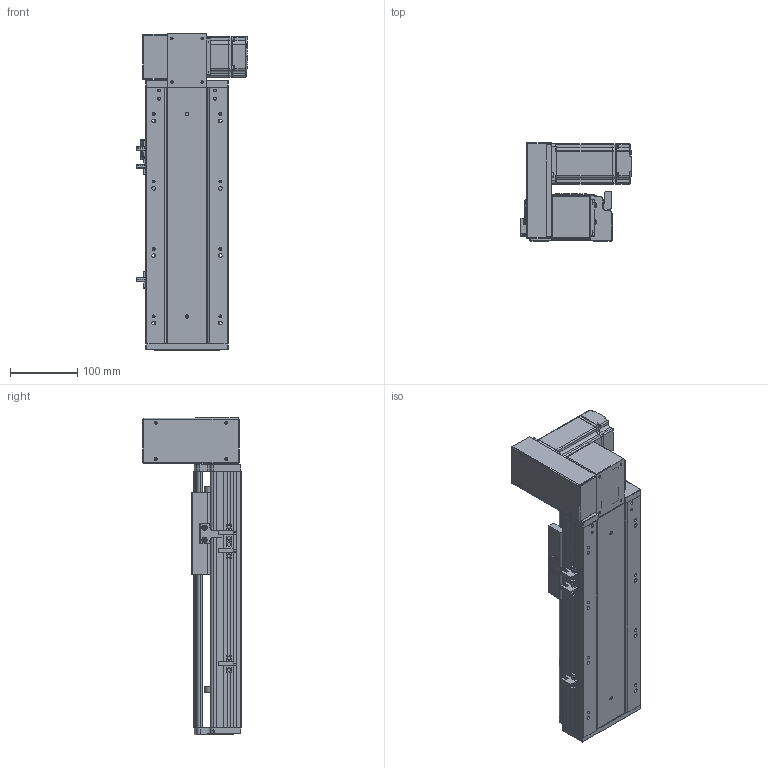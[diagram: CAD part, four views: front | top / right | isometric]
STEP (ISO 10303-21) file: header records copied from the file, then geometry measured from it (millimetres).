
FILE_DESCRIPTION (( 'STEP AP203' ), '1' );
FILE_NAME ('RY120-T-300-UL.SLDASM_150.step', '2021-03-01T05:34:55', ( '盈信电脑' ), ( '东莞市道滘镇水果街19号' ), 'SwSTEP 2.0', 'SolidWorks 2012', '' );
FILE_SCHEMA (( 'CONFIG_CONTROL_DESIGN' ));
Products named in the file (18): RY120-T-300-UL.SLDASM_150; 滅袉蝶18-10; RY120-T蹟翐M4; RY120-T萇儂欶; RY120-T翋肮祭謫裔啣; 15; RY120-T萇儂假蚾啣; RY120-T主同步轮轴承压盖; 侂狟400W侜督萇儂; RY120外置感应片(140共用）; RY120-T翋肮祭盓傅釱; RY120-T肮祭湍揤踡輸2; RY120-T肮祭湍揤踡輸1; 覜茼ん672; RY120綴裔啣; RY120肮祭湍臏賑輸; RY120-T-300-UL倰第奻裔啣_150; RY120-T-300-UL倰第菁釱_150
Assembly tree (23 placements, depth 3):
  RY120-T-300-UL.SLDASM_150
    RY120-T-300-UL倰第菁釱_150
    RY120-T-300-UL倰第奻裔啣_150
    RY120肮祭湍臏賑輸
    RY120綴裔啣
    覜茼ん672  x3
    RY120外置感应片(140共用）
    RY120-T肮祭湍揤踡輸1
    RY120-T肮祭湍揤踡輸2
    RY120-T翋肮祭盓傅釱
    RY120-T萇儂假蚾啣
    侂狟400W侜督萇儂
      15
    RY120-T主同步轮轴承压盖
    滅袉蝶18-10  x2
    RY120-T萇儂欶
    RY120-T蹟翐M4  x4
    RY120-T翋肮祭謫裔啣
Bounding box: 164.2 x 146 x 471 mm (x, y, z)
Volume: 1756077.9 mm3; surface area: 612986.2 mm2
Topology: 23 solids, 23 shells, 2578 faces, 6996 edges, 4514 vertices
Faces by surface type: plane 1386, cylinder 916, cone 187, bspline 89
Entity records: 81060 total; most frequent: CARTESIAN_POINT 19910, ORIENTED_EDGE 12528, DIRECTION 11914, EDGE_CURVE 6264, VERTEX_POINT 4101, LINE 4056, VECTOR 4056, AXIS2_PLACEMENT_3D 3929
